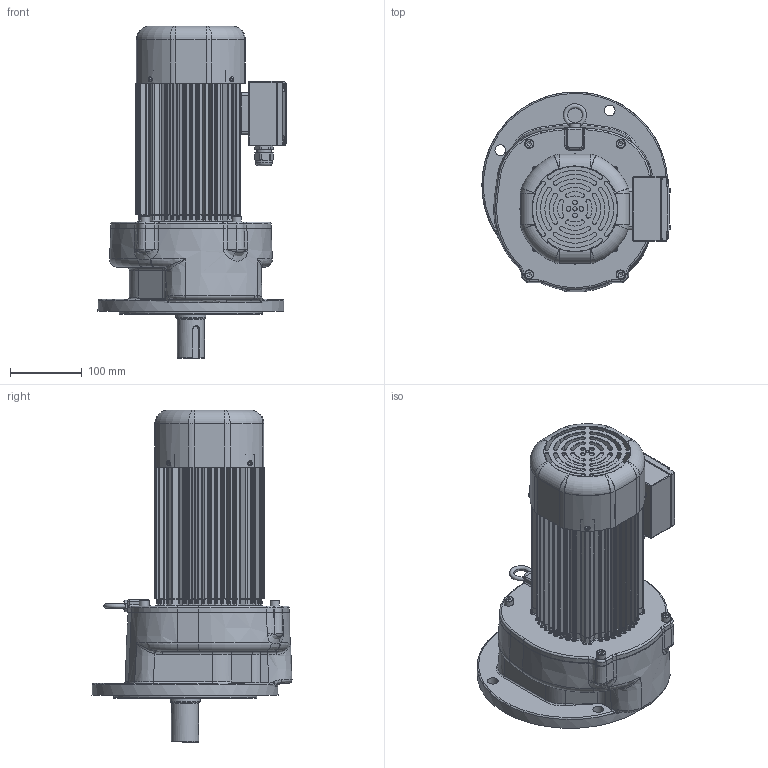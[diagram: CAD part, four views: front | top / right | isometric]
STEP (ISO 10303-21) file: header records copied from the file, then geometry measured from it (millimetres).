
FILE_DESCRIPTION(/* description */ (''),/* implementation_level */ '2;1');
FILE_NAME(/* name */ 'Z:\동력 3D 파일\PMK153_0.75kW_Brake_3D.stp',/* time_stamp */ '2021-11-18T16:43:52+09:00',/* author */ ('jaebok'),/* organization */ (''),/* preprocessor_version */ 'ST-DEVELOPER v18.1',/* originating_system */ 'Autodesk Inventor 2022',/* authorisation */ '');
FILE_SCHEMA (('AUTOMOTIVE_DESIGN { 1 0 10303 214 3 1 1 }'));
Products named in the file (1): 부품12
Bounding box: 263 x 279.52 x 464 mm (x, y, z)
Volume: 3788639.4 mm3; surface area: 939609.6 mm2
Topology: 2 solids, 32 shells, 3621 faces, 9182 edges, 5475 vertices
Faces by surface type: plane 1082, cylinder 963, bspline 934, torus 362, cone 186, sphere 94
Full cylindrical faces by diameter (mm): 2 x1, 3.25 x1, 3.6 x4, 4 x17, 5 x13, 6 x1, 6.8 x5, 7 x13, 8 x19, 9 x4, 10 x1, 12.5 x1, 13 x4, 15 x5, 16 x1, 20 x2, 20.6 x1, 21 x2, 23.6 x1, 25 x1, 28 x2, 35 x2, 36 x1, 38 x1, 39.6 x1, 40.15 x1, 42 x3, 44 x2, 45 x1, 46.8 x1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
Entity records: 143833 total; most frequent: CARTESIAN_POINT 58685, ORIENTED_EDGE 17934, DIRECTION 15833, EDGE_CURVE 8967, AXIS2_PLACEMENT_3D 6394, VERTEX_POINT 5473, EDGE_LOOP 3814, FACE_OUTER_BOUND 3621
